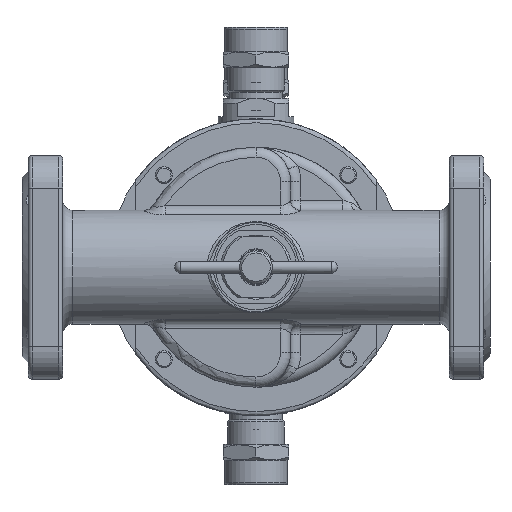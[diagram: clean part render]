
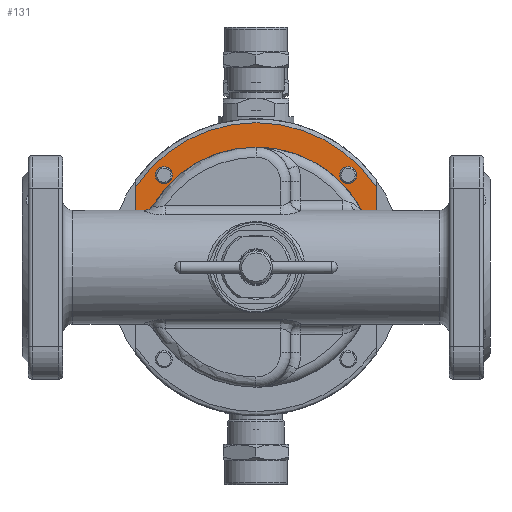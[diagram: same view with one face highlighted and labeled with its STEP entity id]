
A CAD part, front view. The second image highlights one B-rep face of the part: STEP entity #131.
In plain terms, the highlighted planar face has unit normal (0, -1, 0).
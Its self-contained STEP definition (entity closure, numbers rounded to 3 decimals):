
#131=ADVANCED_FACE('',(#4626,#4628,#4630),#4632,.F.);
#4626=FACE_BOUND('',#4627,.T.);
#4627=EDGE_LOOP('',(#23254));
#4628=FACE_BOUND('',#4629,.T.);
#4629=EDGE_LOOP('',(#23255));
#4630=FACE_OUTER_BOUND('',#4631,.T.);
#4631=EDGE_LOOP('',(#23256,#23257,#23258,#23259));
#4632=PLANE('',#4633);
#4633=AXIS2_PLACEMENT_3D('',#4634,#4635,#4636);
#4634=CARTESIAN_POINT('',(0.,39.5,0.));
#4635=DIRECTION('',(0.,1.,0.));
#4636=DIRECTION('',(-1.,0.,0.));
#23254=ORIENTED_EDGE('',*,*,#35733,.T.);
#23255=ORIENTED_EDGE('',*,*,#35691,.T.);
#23256=ORIENTED_EDGE('',*,*,#35734,.F.);
#23257=ORIENTED_EDGE('',*,*,#35735,.F.);
#23258=ORIENTED_EDGE('',*,*,#35736,.F.);
#23259=ORIENTED_EDGE('',*,*,#35737,.F.);
#35691=EDGE_CURVE('',#40995,#40995,#40997,.T.);
#35733=EDGE_CURVE('',#41071,#41071,#41072,.T.);
#35734=EDGE_CURVE('',#41073,#41074,#41075,.T.);
#35735=EDGE_CURVE('',#41076,#41073,#41077,.T.);
#35736=EDGE_CURVE('',#41078,#41076,#41079,.T.);
#35737=EDGE_CURVE('',#41074,#41078,#41080,.T.);
#40995=VERTEX_POINT('',#49748);
#40997=CIRCLE('',#49752,4.188);
#41071=VERTEX_POINT('',#49936);
#41072=CIRCLE('',#49937,4.188);
#41073=VERTEX_POINT('',#49941);
#41074=VERTEX_POINT('',#49942);
#41075=CIRCLE('',#49943,71.);
#41076=VERTEX_POINT('',#49947);
#41077=LINE('',#49948,#49949);
#41078=VERTEX_POINT('',#49951);
#41079=CIRCLE('',#49952,59.);
#41080=LINE('',#49956,#49957);
#49748=CARTESIAN_POINT('',(-49.443,39.5,45.255));
#49752=AXIS2_PLACEMENT_3D('',#49753,#49754,#49755);
#49753=CARTESIAN_POINT('',(-45.255,39.5,45.255));
#49754=DIRECTION('',(0.,1.,0.));
#49755=DIRECTION('',(-1.,0.,0.));
#49936=CARTESIAN_POINT('',(41.067,39.5,45.255));
#49937=AXIS2_PLACEMENT_3D('',#49938,#49939,#49940);
#49938=CARTESIAN_POINT('',(45.255,39.5,45.255));
#49939=DIRECTION('',(0.,1.,0.));
#49940=DIRECTION('',(-1.,0.,0.));
#49941=CARTESIAN_POINT('',(-59.,39.5,39.497));
#49942=CARTESIAN_POINT('',(59.,39.5,39.497));
#49943=AXIS2_PLACEMENT_3D('',#49944,#49945,#49946);
#49944=CARTESIAN_POINT('',(0.,39.5,0.));
#49945=DIRECTION('',(0.,1.,0.));
#49946=DIRECTION('',(-0.831,0.,0.556));
#49947=CARTESIAN_POINT('',(-59.,39.5,0.));
#49948=CARTESIAN_POINT('',(-59.,39.5,0.));
#49949=VECTOR('',#49950,1.);
#49950=DIRECTION('',(0.,0.,1.));
#49951=CARTESIAN_POINT('',(59.,39.5,0.));
#49952=AXIS2_PLACEMENT_3D('',#49953,#49954,#49955);
#49953=CARTESIAN_POINT('',(0.,39.5,0.));
#49954=DIRECTION('',(0.,-1.,0.));
#49955=DIRECTION('',(1.,0.,0.));
#49956=CARTESIAN_POINT('',(59.,39.5,39.497));
#49957=VECTOR('',#49958,1.);
#49958=DIRECTION('',(0.,0.,-1.));
